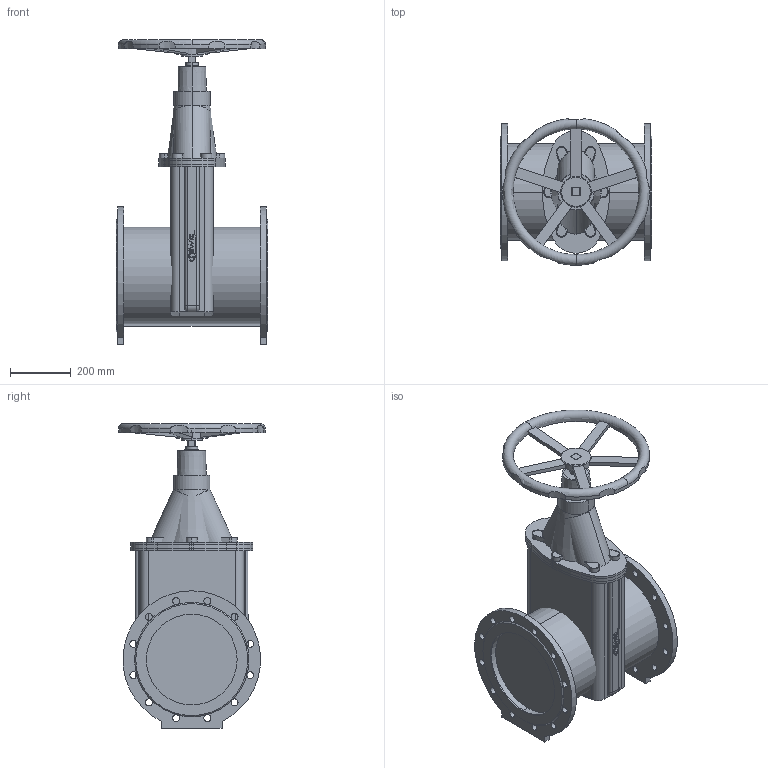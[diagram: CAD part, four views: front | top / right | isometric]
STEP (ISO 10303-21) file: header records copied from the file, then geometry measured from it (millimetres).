
FILE_DESCRIPTION(('STEP AP214'),'1');
FILE_NAME('S:/EK/USER/CAT6/3DHomepage/4700E2/4700E2-PN10-DN300-HANDRAD.STP','2012-04-23T14:44:56',(' '),(' '),'Spatial InterOp 3D',' ',' ');
FILE_SCHEMA(('automotive_design'));
Length unit declared in the file: millimetre
Products named in the file (57): 3D-Objekt
Bounding box: 500 x 484.36 x 1007.5 mm (x, y, z)
Volume: 75874612 mm3; surface area: 3192116.1 mm2
Topology: 57 solids, 57 shells, 574 faces, 1373 edges, 915 vertices
Faces by surface type: plane 284, cylinder 260, torus 12, cone 10, bspline 8
Entity records: 23237 total; most frequent: CARTESIAN_POINT 3325, DIRECTION 3190, ORIENTED_EDGE 2746, EDGE_CURVE 1373, AXIS2_PLACEMENT_3D 1204, VERTEX_POINT 915, LINE 782, VECTOR 782
